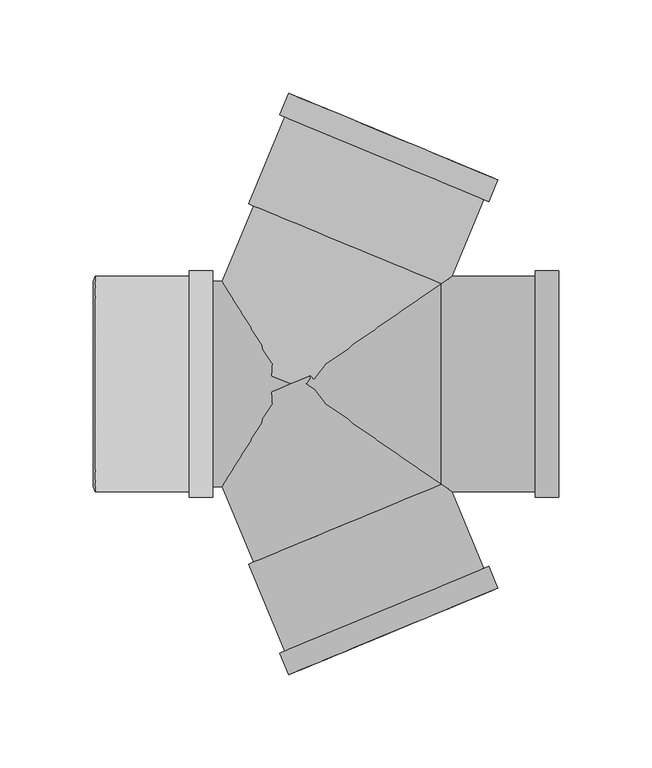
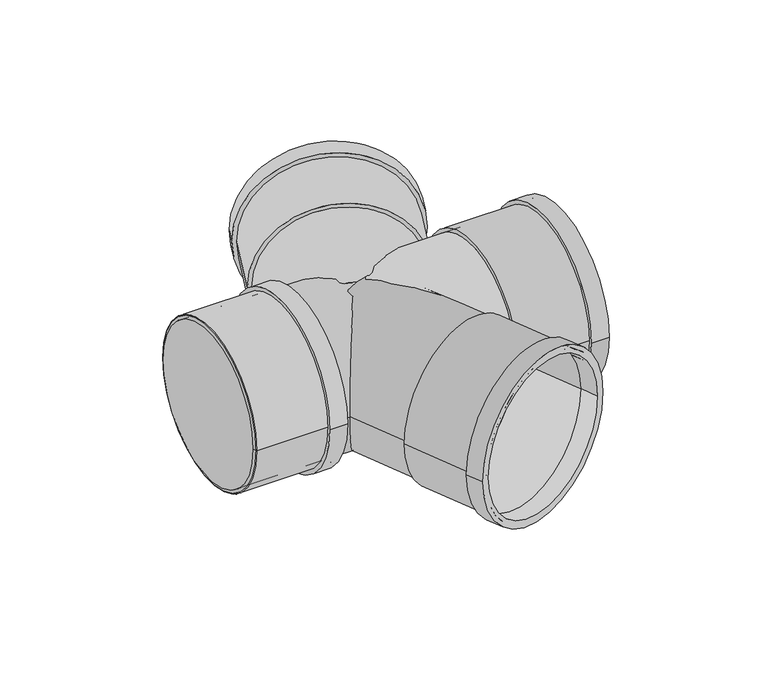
"""IFC4 building model written with IfcOpenShell, lengths in millimetres: pipe fitting geometry, Superdrain HTDA-Double Branch : Superdrain HTDA-Double Branch."""

from ifc_helpers import new_model, si_unit, point, frame, origin, origin_2d, place, context, project, spatial, polyline, circle_curve, trimmed, segment, composite_curve, outline, extrude, source, transform, mapped, element, save
from ifc_brep_helpers import plane_surface, revolved_surface, advanced_brep


def pipe_fitting_3a3b7264(model_context):
    return source(origin(), model_context, "Body", "SolidModel", [
        extrude(outline(composite_curve([segment(trimmed(circle_curve(origin_2d(), 57.75), [point((57.75, 0.0))], [point((-57.75, 0.0))], False, "CARTESIAN"), True, "CONTINUOUS"), segment(trimmed(circle_curve(origin_2d(), 57.75), [point((-57.75, 0.0))], [point((57.75, 0.0))], False, "CARTESIAN"), True, "CONTINUOUS")], self_intersect=False), holes=[composite_curve([segment(trimmed(circle_curve(origin_2d(), 55.0), [point((55.0, 0.0))], [point((-55.0, 0.0))], True, "CARTESIAN"), True, "CONTINUOUS"), segment(trimmed(circle_curve(origin_2d(), 55.0), [point((-55.0, 0.0))], [point((55.0, 0.0))], True, "CARTESIAN"), True, "CONTINUOUS")], self_intersect=False)]), frame((-104.9, 0.0, 0.0), z_axis=(1.0, 0.0, 0.0), x_axis=(0.0, 1.0, 0.0)), (0.0, 0.0, 1.0), 63.0),
        extrude(outline(composite_curve([segment(trimmed(circle_curve(origin_2d(), 60.6375), [point((60.6375, 0.0))], [point((-60.6375, 0.0))], False, "CARTESIAN"), True, "CONTINUOUS"), segment(trimmed(circle_curve(origin_2d(), 60.6375), [point((-60.6375, 0.0))], [point((60.6375, 0.0))], False, "CARTESIAN"), True, "CONTINUOUS")], self_intersect=False), holes=[composite_curve([segment(trimmed(circle_curve(origin_2d(), 55.0), [point((55.0, 0.0))], [point((-55.0, 0.0))], True, "CARTESIAN"), True, "CONTINUOUS"), segment(trimmed(circle_curve(origin_2d(), 55.0), [point((-55.0, 0.0))], [point((55.0, 0.0))], True, "CARTESIAN"), True, "CONTINUOUS")], self_intersect=False)]), frame((-54.5, 0.0, 0.0), z_axis=(1.0, 0.0, 0.0), x_axis=(0.0, 1.0, 0.0)), (0.0, 0.0, 1.0), 12.6),
        advanced_brep(
        [(-105.9, 55.0, 0.0), (-105.9, -55.0, 0.0), (-104.9, 57.75, 0.0), (-104.9, -57.75, 0.0)],
        [
            (0, 1, circle_curve(frame((-105.9, 0.0, 0.0), z_axis=(-1.0, 0.0, 0.0), x_axis=(0.0, 1.0000000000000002, 0.0)), 55.0)),
            (1, 0, circle_curve(frame((-105.9, 0.0, 0.0), z_axis=(-1.0, 0.0, 0.0), x_axis=(0.0, -1.0000000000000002, 0.0)), 55.0)),
            (2, 3, circle_curve(frame((-104.9, 0.0, 0.0), z_axis=(1.0, 0.0, 0.0), x_axis=(0.0, -1.0000000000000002, 0.0)), 57.75)),
            (3, 2, circle_curve(frame((-104.9, 0.0, 0.0), z_axis=(1.0, 0.0, 0.0), x_axis=(0.0, 1.0000000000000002, 0.0)), 57.75)),
            (3, 1),
            (0, 2),
        ],
        [
            plane_surface(frame((-105.9, 0.0, 0.0), z_axis=(-1.0, 0.0, 0.0), x_axis=(0.0, 0.0, -1.0))),
            plane_surface(frame((-104.9, 0.0, 0.0), z_axis=(1.0, 0.0, 0.0), x_axis=(0.0, 0.0, -1.0))),
            revolved_surface(polyline([(-105.9, 55.0, 0.0), (-104.9, 57.75, 0.0)]), (-125.9, 0.0, 0.0), (1.0000000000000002, 0.0, 0.0)),
            revolved_surface(polyline([(-105.9, -55.0, 0.0), (-104.9, -57.75, 0.0)]), (-125.9, 0.0, 0.0), (1.0000000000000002, 0.0, 0.0)),
        ],
        [
            (0, [[1, 2]]),
            (1, [[3, 4]]),
            (2, [[-4, 5, -1, 6]]),
            (3, [[-3, -6, -2, -5]]),
        ],
    ),
        extrude(outline(composite_curve([segment(trimmed(circle_curve(origin_2d(), 60.6375), [point((0.0, -60.6375))], [point((0.0, 60.6375))], False, "CARTESIAN"), True, "CONTINUOUS"), segment(trimmed(circle_curve(origin_2d(), 60.6375), [point((0.0, 60.6375))], [point((0.0, -60.6375))], False, "CARTESIAN"), True, "CONTINUOUS")], self_intersect=False), holes=[composite_curve([segment(trimmed(circle_curve(origin_2d(), 55.0), [point((0.0, -55.0))], [point((0.0, 55.0))], True, "CARTESIAN"), True, "CONTINUOUS"), segment(trimmed(circle_curve(origin_2d(), 55.0), [point((0.0, 55.0))], [point((0.0, -55.0))], True, "CARTESIAN"), True, "CONTINUOUS")], self_intersect=False)]), frame((54.9533409, -132.6691009, 0.0), z_axis=(-0.38268343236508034, 0.9238795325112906, 0.0), x_axis=(0.0, 0.0, 1.0)), (0.0, 0.0, 1.0), 12.6),
        extrude(outline(composite_curve([segment(trimmed(circle_curve(origin_2d(), 57.75), [point((0.0, -57.75))], [point((0.0, 57.75))], False, "CARTESIAN"), True, "CONTINUOUS"), segment(trimmed(circle_curve(origin_2d(), 57.75), [point((0.0, 57.75))], [point((0.0, -57.75))], False, "CARTESIAN"), True, "CONTINUOUS")], self_intersect=False), holes=[composite_curve([segment(trimmed(circle_curve(origin_2d(), 55.0), [point((0.0, -55.0))], [point((0.0, 55.0))], True, "CARTESIAN"), True, "CONTINUOUS"), segment(trimmed(circle_curve(origin_2d(), 55.0), [point((0.0, 55.0))], [point((0.0, -55.0))], True, "CARTESIAN"), True, "CONTINUOUS")], self_intersect=False)]), frame((54.9533409, -132.6691009, 0.0), z_axis=(-0.38268343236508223, 0.92387953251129, 0.0), x_axis=(0.0, 0.0, 1.0)), (0.0, 0.0, 1.0), 63.0),
        extrude(outline(composite_curve([segment(trimmed(circle_curve(origin_2d(), 55.0), [point((0.0, -54.9999999))], [point((0.0, 55.0))], False, "CARTESIAN"), True, "CONTINUOUS"), segment(trimmed(circle_curve(origin_2d(), 55.0), [point((0.0, 55.0))], [point((0.0, -54.9999999))], False, "CARTESIAN"), True, "CONTINUOUS")], self_intersect=False)), frame((30.8442846, -74.4646903, 0.0), z_axis=(-0.3826834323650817, 0.9238795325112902, 0.0), x_axis=(0.0, 0.0, 1.0)), (0.0, 0.0, 1.0), 80.6),
        extrude(outline(composite_curve([segment(trimmed(circle_curve(origin_2d(), 60.6375), [point((0.0, 60.6375001))], [point((0.0, -60.6374999))], False, "CARTESIAN"), True, "CONTINUOUS"), segment(trimmed(circle_curve(origin_2d(), 60.6375), [point((0.0, -60.6374999))], [point((0.0, 60.6375001))], False, "CARTESIAN"), True, "CONTINUOUS")], self_intersect=False), holes=[composite_curve([segment(trimmed(circle_curve(origin_2d(), 55.0), [point((0.0, 55.0))], [point((0.0, -54.9999999))], True, "CARTESIAN"), True, "CONTINUOUS"), segment(trimmed(circle_curve(origin_2d(), 55.0), [point((0.0, -54.9999999))], [point((0.0, 55.0))], True, "CARTESIAN"), True, "CONTINUOUS")], self_intersect=False)]), frame((50.1315296, 121.0282188, 0.0), z_axis=(0.3826834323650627, 0.9238795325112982, 0.0), x_axis=(0.0, 0.0, 1.0)), (0.0, 0.0, 1.0), 12.6),
        extrude(outline(composite_curve([segment(trimmed(circle_curve(origin_2d(), 57.75), [point((0.0, 57.7500001))], [point((0.0, -57.75))], False, "CARTESIAN"), True, "CONTINUOUS"), segment(trimmed(circle_curve(origin_2d(), 57.75), [point((0.0, -57.75))], [point((0.0, 57.7500001))], False, "CARTESIAN"), True, "CONTINUOUS")], self_intersect=False), holes=[composite_curve([segment(trimmed(circle_curve(origin_2d(), 55.0), [point((0.0, 55.0))], [point((0.0, -54.9999999))], True, "CARTESIAN"), True, "CONTINUOUS"), segment(trimmed(circle_curve(origin_2d(), 55.0), [point((0.0, -54.9999999))], [point((0.0, 55.0))], True, "CARTESIAN"), True, "CONTINUOUS")], self_intersect=False)]), frame((30.8442846, 74.4646903, 0.0), z_axis=(0.3826834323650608, 0.9238795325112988, 0.0), x_axis=(0.0, 0.0, 1.0)), (0.0, 0.0, 1.0), 63.0),
        extrude(outline(composite_curve([segment(trimmed(circle_curve(origin_2d(), 55.0), [point((0.0, 55.0))], [point((0.0, -55.0))], False, "CARTESIAN"), True, "CONTINUOUS"), segment(trimmed(circle_curve(origin_2d(), 55.0), [point((0.0, -55.0))], [point((0.0, 55.0))], False, "CARTESIAN"), True, "CONTINUOUS")], self_intersect=False)), frame((0.0, 0.0, 0.0), z_axis=(0.3826834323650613, 0.9238795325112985, 0.0), x_axis=(0.0, 0.0, 1.0)), (0.0, 0.0, 1.0), 80.6),
        extrude(outline(composite_curve([segment(trimmed(circle_curve(origin_2d(), 60.6375), [point((-60.6375, 0.0))], [point((60.6375, 0.0))], False, "CARTESIAN"), True, "CONTINUOUS"), segment(trimmed(circle_curve(origin_2d(), 60.6375), [point((60.6375, 0.0))], [point((-60.6375, 0.0))], False, "CARTESIAN"), True, "CONTINUOUS")], self_intersect=False), holes=[composite_curve([segment(trimmed(circle_curve(origin_2d(), 57.75), [point((-57.75, 0.0))], [point((57.75, 0.0))], True, "CARTESIAN"), True, "CONTINUOUS"), segment(trimmed(circle_curve(origin_2d(), 57.75), [point((57.75, 0.0))], [point((-57.75, 0.0))], True, "CARTESIAN"), True, "CONTINUOUS")], self_intersect=False)]), frame((131.0, 0.0, 0.0), z_axis=(1.0, 0.0, 0.0), x_axis=(0.0, 1.0, 0.0)), (0.0, 0.0, 1.0), 12.6),
        extrude(outline(composite_curve([segment(trimmed(circle_curve(origin_2d(), 57.75), [point((-57.75, 0.0))], [point((57.75, 0.0))], False, "CARTESIAN"), True, "CONTINUOUS"), segment(trimmed(circle_curve(origin_2d(), 57.75), [point((57.75, 0.0))], [point((-57.75, 0.0))], False, "CARTESIAN"), True, "CONTINUOUS")], self_intersect=False), holes=[composite_curve([segment(trimmed(circle_curve(origin_2d(), 55.0), [point((-55.0, 0.0))], [point((55.0, 0.0))], True, "CARTESIAN"), True, "CONTINUOUS"), segment(trimmed(circle_curve(origin_2d(), 55.0), [point((55.0, 0.0))], [point((-55.0, 0.0))], True, "CARTESIAN"), True, "CONTINUOUS")], self_intersect=False)]), frame((80.6, 0.0, 0.0), z_axis=(1.0, 0.0, 0.0), x_axis=(0.0, 1.0, 0.0)), (0.0, 0.0, 1.0), 63.0),
        extrude(outline(composite_curve([segment(trimmed(circle_curve(origin_2d(), 55.0), [point((-55.0, 0.0))], [point((55.0, 0.0))], False, "CARTESIAN"), True, "CONTINUOUS"), segment(trimmed(circle_curve(origin_2d(), 55.0), [point((55.0, 0.0))], [point((-55.0, 0.0))], False, "CARTESIAN"), True, "CONTINUOUS")], self_intersect=False)), frame((0.0, 0.0, 0.0), z_axis=(1.0, 0.0, 0.0), x_axis=(0.0, 1.0, 0.0)), (0.0, 0.0, 1.0), 80.6),
        extrude(outline(composite_curve([segment(trimmed(circle_curve(origin_2d(), 55.0), [point((-55.0, 0.0))], [point((55.0, 0.0))], False, "CARTESIAN"), True, "CONTINUOUS"), segment(trimmed(circle_curve(origin_2d(), 55.0), [point((55.0, 0.0))], [point((-55.0, 0.0))], False, "CARTESIAN"), True, "CONTINUOUS")], self_intersect=False)), frame((-104.9, 0.0, 0.0), z_axis=(1.0, 0.0, 0.0), x_axis=(0.0, 1.0, 0.0)), (0.0, 0.0, 1.0), 104.9),
    ])


if __name__ == "__main__":
    model = new_model("IFC4")
    model_context = context("Model", 3, world=origin())
    ifc_project = project(units=[si_unit("LENGTHUNIT", "METRE", prefix="MILLI")], contexts=[model_context])
    site = spatial("IfcSite", under=ifc_project)
    building = spatial("IfcBuilding", under=site)
    placement = place(None, origin())
    pipe_fitting_shape = pipe_fitting_3a3b7264(model_context)
    element("IfcPipeFitting", 1, ObjectType="Superdrain HTDA-Double Branch : Superdrain HTDA-Double Branch", at=placement, inside=building, context=model_context, shape_type="MappedRepresentation", body=[
        mapped(pipe_fitting_shape, transform((0.0, 0.0, 0.0), x_axis=(1.0, 0.0, 0.0), y_axis=(0.0, 1.0, 0.0), z_axis=(0.0, 0.0, 1.0))),
    ])
    save(model, "model.ifc")
